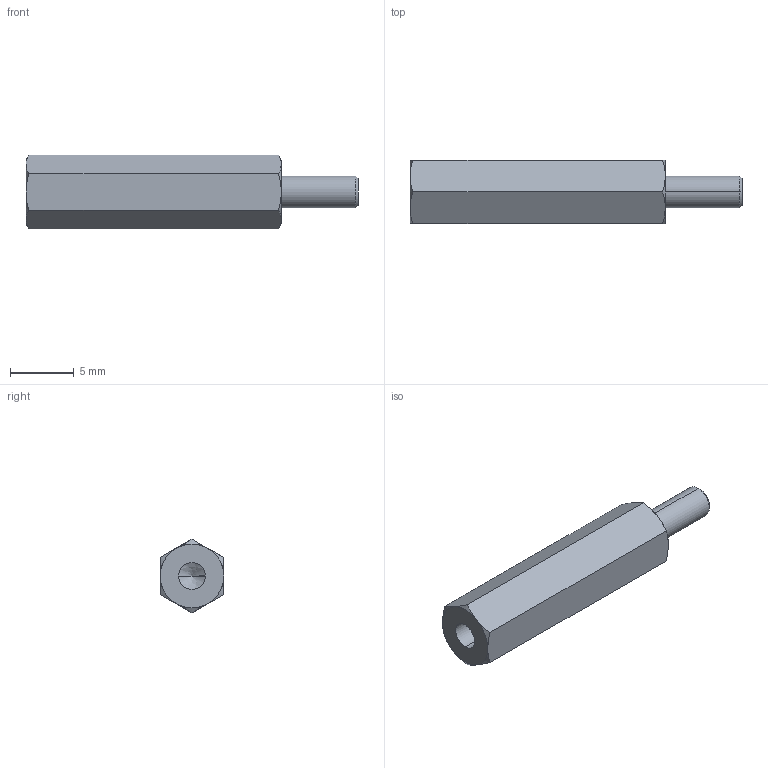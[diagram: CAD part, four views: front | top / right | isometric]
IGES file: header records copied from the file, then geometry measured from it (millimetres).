
Start section: SolidWorks IGES file using analytic representation for surfaces
Global section: file name: C:\Users\render1\Desktop\P0185_IGES\P0185.025-20.igs; native system: SolidWorks 2009; preprocessor: SolidWorks 2009; author: render1; date: 130627.111543; units: millimetre
Bounding box: 26 x 5 x 5.77 mm (x, y, z)
Surface area: 474 mm2 (no closed solid volume)
Topology: 0 solids, 0 shells, 29 faces, 324 edges, 322 vertices
Faces by surface type: revolution 20, bspline 9
